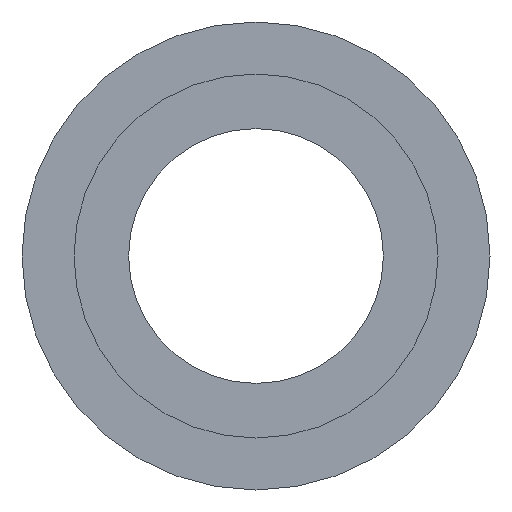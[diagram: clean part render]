
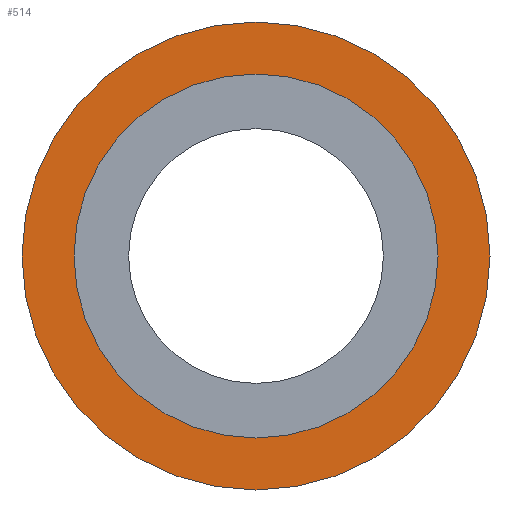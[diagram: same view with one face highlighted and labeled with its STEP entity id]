
A CAD part, left-side view. The second image highlights one B-rep face of the part: STEP entity #514.
In plain terms, the highlighted planar face has unit normal (-1, 0, 0).
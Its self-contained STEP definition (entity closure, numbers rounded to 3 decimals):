
#15 = ORIENTED_EDGE ( 'NONE', *, *, #503, .T. ) ;
#34 = CARTESIAN_POINT ( 'NONE',  ( 0., 0., 0. ) ) ;
#39 = EDGE_LOOP ( 'NONE', ( #509, #491 ) ) ;
#40 = DIRECTION ( 'NONE',  ( -1., 0., 0. ) ) ;
#45 = DIRECTION ( 'NONE',  ( 0., 0., 1. ) ) ;
#54 = CARTESIAN_POINT ( 'NONE',  ( 0., 35., 0. ) ) ;
#66 = DIRECTION ( 'NONE',  ( 1., 0., 0. ) ) ;
#67 = AXIS2_PLACEMENT_3D ( 'NONE', #155, #158, #294 ) ;
#68 = DIRECTION ( 'NONE',  ( 0., 0., -1. ) ) ;
#70 = FACE_OUTER_BOUND ( 'NONE', #506, .T. ) ;
#115 = FACE_BOUND ( 'NONE', #39, .T. ) ;
#120 = VERTEX_POINT ( 'NONE', #246 ) ;
#125 = CARTESIAN_POINT ( 'NONE',  ( 0., 0., -45. ) ) ;
#155 = CARTESIAN_POINT ( 'NONE',  ( 0., 0., 0. ) ) ;
#157 = CARTESIAN_POINT ( 'NONE',  ( 0., 0., -35. ) ) ;
#158 = DIRECTION ( 'NONE',  ( -1., 0., 0. ) ) ;
#168 = CARTESIAN_POINT ( 'NONE',  ( 0., 0., 0. ) ) ;
#171 = EDGE_CURVE ( 'NONE', #493, #564, #541, .T. ) ;
#179 = DIRECTION ( 'NONE',  ( -1., 0., 0. ) ) ;
#180 = DIRECTION ( 'NONE',  ( 0., 0., 1. ) ) ;
#203 = AXIS2_PLACEMENT_3D ( 'NONE', #34, #40, #45 ) ;
#246 = CARTESIAN_POINT ( 'NONE',  ( 0., 0., 35. ) ) ;
#294 = DIRECTION ( 'NONE',  ( 0., 0., 1. ) ) ;
#297 = EDGE_CURVE ( 'NONE', #446, #120, #462, .T. ) ;
#313 = AXIS2_PLACEMENT_3D ( 'NONE', #54, #66, #68 ) ;
#319 = AXIS2_PLACEMENT_3D ( 'NONE', #335, #337, #338 ) ;
#330 = AXIS2_PLACEMENT_3D ( 'NONE', #168, #179, #180 ) ;
#335 = CARTESIAN_POINT ( 'NONE',  ( 0., 0., 0. ) ) ;
#337 = DIRECTION ( 'NONE',  ( -1., 0., 0. ) ) ;
#338 = DIRECTION ( 'NONE',  ( 0., 0., 1. ) ) ;
#423 = EDGE_CURVE ( 'NONE', #120, #446, #567, .T. ) ;
#446 = VERTEX_POINT ( 'NONE', #157 ) ;
#462 = CIRCLE ( 'NONE', #319, 35. ) ;
#488 = CARTESIAN_POINT ( 'NONE',  ( 0., 0., 45. ) ) ;
#491 = ORIENTED_EDGE ( 'NONE', *, *, #297, .F. ) ;
#493 = VERTEX_POINT ( 'NONE', #488 ) ;
#501 = ORIENTED_EDGE ( 'NONE', *, *, #171, .T. ) ;
#503 = EDGE_CURVE ( 'NONE', #564, #493, #623, .T. ) ;
#506 = EDGE_LOOP ( 'NONE', ( #501, #15 ) ) ;
#509 = ORIENTED_EDGE ( 'NONE', *, *, #423, .F. ) ;
#514 = ADVANCED_FACE ( 'NONE', ( #115, #70 ), #550, .F. ) ;
#541 = CIRCLE ( 'NONE', #330, 45. ) ;
#550 = PLANE ( 'NONE',  #313 ) ;
#564 = VERTEX_POINT ( 'NONE', #125 ) ;
#567 = CIRCLE ( 'NONE', #67, 35. ) ;
#623 = CIRCLE ( 'NONE', #203, 45. ) ;
